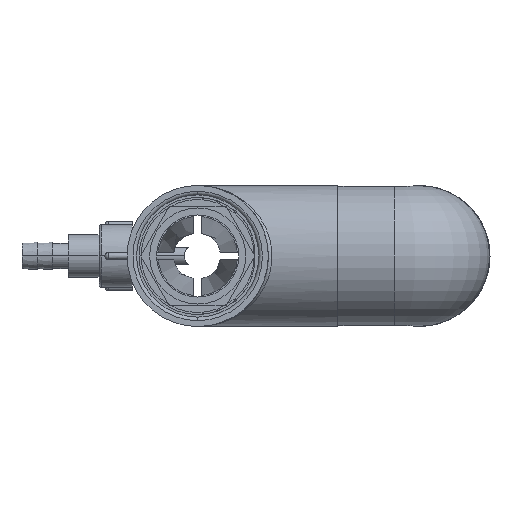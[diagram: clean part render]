
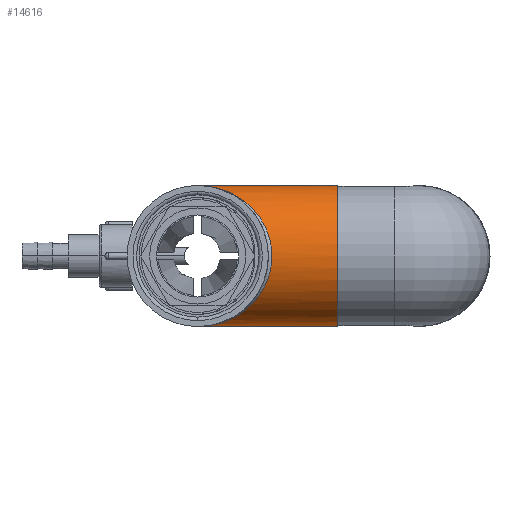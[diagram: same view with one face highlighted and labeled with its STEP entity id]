
A CAD part, left-side view. The second image highlights one B-rep face of the part: STEP entity #14616.
In plain terms, the highlighted cylindrical face has radius 34.925 mm (diameter 69.85 mm), a partial arc.
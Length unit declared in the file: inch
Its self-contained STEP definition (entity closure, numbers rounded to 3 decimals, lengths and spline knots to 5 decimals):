
#144 = ORIENTED_EDGE ( 'NONE', *, *, #15375, .T. ) ;
#527 = CARTESIAN_POINT ( 'NONE',  ( -7.58497, -2.732, 1.375 ) ) ;
#553 = CARTESIAN_POINT ( 'NONE',  ( -7.58497, -2.732, -1.375 ) ) ;
#580 = VERTEX_POINT ( 'NONE', #527 ) ;
#614 = DIRECTION ( 'NONE',  ( 0., 1., 0. ) ) ;
#680 = DIRECTION ( 'NONE',  ( 0., 1., 0. ) ) ;
#852 = AXIS2_PLACEMENT_3D ( 'NONE', #11126, #3886, #12358 ) ;
#1195 = FACE_OUTER_BOUND ( 'NONE', #11422, .T. ) ;
#2117 = VERTEX_POINT ( 'NONE', #3092 ) ;
#2394 = ORIENTED_EDGE ( 'NONE', *, *, #9851, .F. ) ;
#2717 = CARTESIAN_POINT ( 'NONE',  ( -7.58497, -2.732, 1.375 ) ) ;
#2911 = CYLINDRICAL_SURFACE ( 'NONE', #2932, 1.375 ) ;
#2932 = AXIS2_PLACEMENT_3D ( 'NONE', #10335, #680, #15286 ) ;
#3092 = CARTESIAN_POINT ( 'NONE',  ( -7.58497, 0., 1.375 ) ) ;
#3884 = LINE ( 'NONE', #7892, #13207 ) ;
#3886 = DIRECTION ( 'NONE',  ( 0., -1., 0. ) ) ;
#3940 = DIRECTION ( 'NONE',  ( 0., 1., 0. ) ) ;
#3958 = VECTOR ( 'NONE', #3940, 39.37008 ) ;
#4382 = CARTESIAN_POINT ( 'NONE',  ( -10.33497, -2.89, 1.375 ) ) ;
#4857 = VERTEX_POINT ( 'NONE', #553 ) ;
#5247 = EDGE_CURVE ( 'NONE', #580, #2117, #7559, .T. ) ;
#5626 = CARTESIAN_POINT ( 'NONE',  ( -7.58497, 0., -1.375 ) ) ;
#7559 = LINE ( 'NONE', #2717, #3958 ) ;
#7659 = CIRCLE ( 'NONE', #852, 1.375 ) ;
#7892 = CARTESIAN_POINT ( 'NONE',  ( -7.58497, -2.732, -1.375 ) ) ;
#9527 = ORIENTED_EDGE ( 'NONE', *, *, #5247, .T. ) ;
#9609 = ORIENTED_EDGE ( 'NONE', *, *, #10260, .F. ) ;
#9851 = EDGE_CURVE ( 'NONE', #4857, #13728, #3884, .T. ) ;
#10260 = EDGE_CURVE ( 'NONE', #580, #4857, #7659, .T. ) ;
#10335 = CARTESIAN_POINT ( 'NONE',  ( -7.58497, -2.732, 0. ) ) ;
#11126 = CARTESIAN_POINT ( 'NONE',  ( -7.58497, -2.732, 0. ) ) ;
#11422 = EDGE_LOOP ( 'NONE', ( #2394, #9609, #9527, #144 ) ) ;
#11487 =( BOUNDED_CURVE ( )  B_SPLINE_CURVE ( 3, ( #11643, #4382, #12859, #5626 ),
 .UNSPECIFIED., .F., .F. ) 
 B_SPLINE_CURVE_WITH_KNOTS ( ( 4, 4 ),
 ( 1.5708, 4.71239 ),
 .UNSPECIFIED. ) 
 CURVE ( )  GEOMETRIC_REPRESENTATION_ITEM ( )  RATIONAL_B_SPLINE_CURVE ( ( 1., 0.333, 0.333, 1. ) ) 
 REPRESENTATION_ITEM ( '' )  );
#11643 = CARTESIAN_POINT ( 'NONE',  ( -7.58497, 0., 1.375 ) ) ;
#12358 = DIRECTION ( 'NONE',  ( 0., 0., -1. ) ) ;
#12859 = CARTESIAN_POINT ( 'NONE',  ( -10.33497, -2.89, -1.375 ) ) ;
#13207 = VECTOR ( 'NONE', #614, 39.37008 ) ;
#13728 = VERTEX_POINT ( 'NONE', #13841 ) ;
#13841 = CARTESIAN_POINT ( 'NONE',  ( -7.58497, 0., -1.375 ) ) ;
#14616 = ADVANCED_FACE ( 'NONE', ( #1195 ), #2911, .T. ) ;
#15286 = DIRECTION ( 'NONE',  ( 0., 0., 1. ) ) ;
#15375 = EDGE_CURVE ( 'NONE', #2117, #13728, #11487, .T. ) ;
